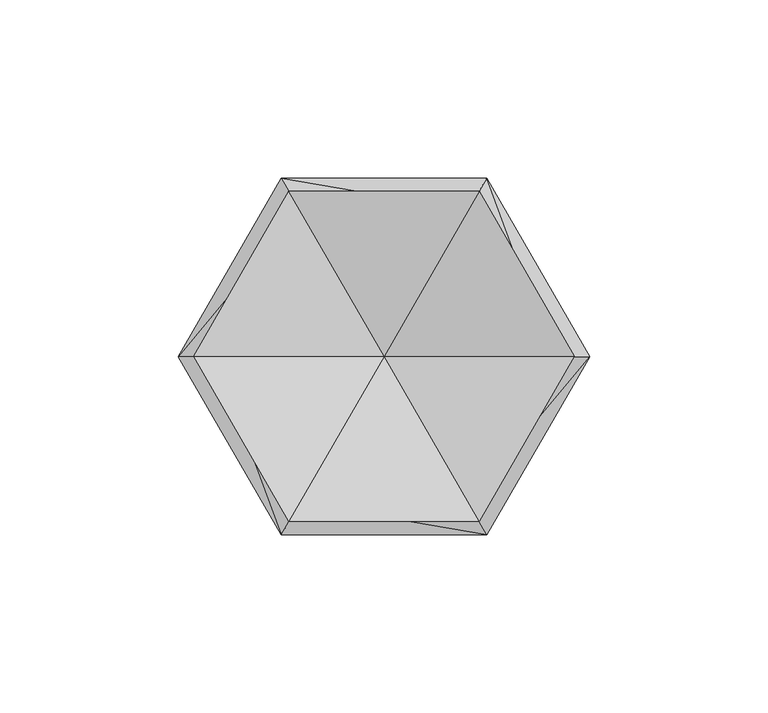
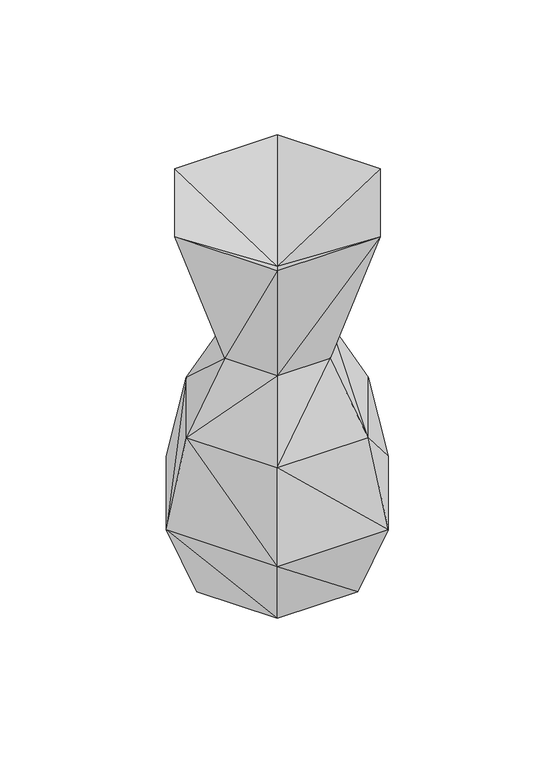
"""IFC4 building model written with IfcOpenShell, lengths in millimetres: geographic element geometry, Enscape AssetDefinition - Pineapple 1 : Enscape AssetDefinition - Pineapple 1."""

from ifc_helpers import new_model, si_unit, origin, place, context, project, spatial, faceted_brep, source, transform, mapped, element, save


def geographic_element_afe0a627(model_context):
    return source(origin(), model_context, "Body", "Brep", [
        faceted_brep([(42.3904583, -4e-07, 0.0), (21.4573685, -36.2571664, 0.0), (-20.4087868, -36.2571664, 0.0), (-28.3432137, -50.0000007, 39.6350324), (29.3917973, -50.0000007, 39.6350324), (-57.210736, -5.3e-06, 39.6350324), (-41.341871, -4e-06, 0.0), (-20.4087943, 36.2571627, 0.0), (58.2593158, -2e-07, 39.6350324), (21.4573704, 36.2571627, 0.0), (-23.1681615, -41.0365425, 86.8245512), (24.2167413, -41.0365425, 86.8245512), (29.3918047, 50.0000007, 39.6350324), (47.9092076, -3e-07, 86.8245512), (-28.343223, 49.999997, 39.6350324), (24.2167469, 41.0365425, 86.8245512), (-23.168169, 41.0365388, 86.8245512), (14.2622171, 23.7947889, 123.6041039), (28.0001462, -2e-07, 123.6041039), (14.2622143, -23.7947889, 123.6041039), (53.9656132, -1.2e-06, 199.3921548), (27.2449553, 46.2815575, 199.3921548), (-26.1963662, 46.2815501, 199.3921548), (-13.2136354, 23.794787, 123.6041039), (-52.9170297, -5.8e-06, 199.3921548), (-26.9515589, -2.6e-06, 123.6041039), (0.5242929, -1e-06, 164.4881517), (27.2449516, -46.2815389, 199.3921548), (-26.1963643, -46.2815389, 199.3921548), (-46.8606204, -4.5e-06, 86.8245512), (-13.2136326, -23.7947889, 123.6041039)], [[[0, 1, 2]], [[3, 2, 1]], [[4, 1, 0]], [[3, 1, 4]], [[5, 6, 2]], [[7, 2, 6]], [[0, 2, 7]], [[5, 2, 3]], [[8, 0, 9]], [[0, 7, 9]], [[4, 0, 8]], [[3, 4, 10]], [[4, 8, 11]], [[10, 4, 11]], [[8, 12, 13]], [[8, 9, 12]], [[11, 8, 13]], [[12, 9, 7]], [[14, 7, 6]], [[12, 7, 14]], [[14, 6, 5]], [[12, 14, 15]], [[14, 5, 16]], [[15, 14, 16]], [[13, 12, 15]], [[13, 15, 17]], [[11, 13, 18]], [[13, 17, 18]], [[10, 11, 19]], [[11, 18, 19]], [[20, 18, 21]], [[21, 18, 17]], [[20, 19, 18]], [[21, 17, 22]], [[15, 23, 17]], [[22, 17, 23]], [[15, 16, 23]], [[22, 23, 24]], [[16, 25, 23]], [[24, 23, 25]], [[26, 21, 22]], [[26, 22, 24]], [[26, 20, 21]], [[27, 19, 20]], [[26, 27, 20]], [[26, 24, 28]], [[26, 28, 27]], [[24, 25, 28]], [[16, 29, 25]], [[29, 30, 25]], [[28, 25, 30]], [[28, 30, 27]], [[27, 30, 19]], [[29, 10, 30]], [[10, 19, 30]], [[5, 3, 29]], [[16, 5, 29]], [[29, 3, 10]]]),
    ])


if __name__ == "__main__":
    model = new_model("IFC4")
    model_context = context("Model", 3, world=origin())
    ifc_project = project(units=[si_unit("LENGTHUNIT", "METRE", prefix="MILLI")], contexts=[model_context])
    site = spatial("IfcSite", under=ifc_project)
    building = spatial("IfcBuilding", under=site)
    placement = place(None, origin())
    geographic_element_shape = geographic_element_afe0a627(model_context)
    element("IfcGeographicElement", 1, ObjectType="Enscape AssetDefinition - Pineapple 1 : Enscape AssetDefinition - Pineapple 1", at=placement, inside=building, context=model_context, shape_type="MappedRepresentation", body=[
        mapped(geographic_element_shape, transform((0.0, 0.0, 0.0), x_axis=(1.0, 0.0, 0.0), y_axis=(0.0, 1.0, 0.0), z_axis=(0.0, 0.0, 1.0))),
    ])
    save(model, "model.ifc")
